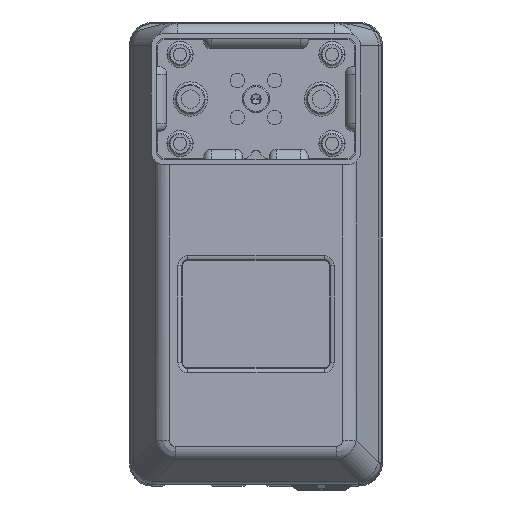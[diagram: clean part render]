
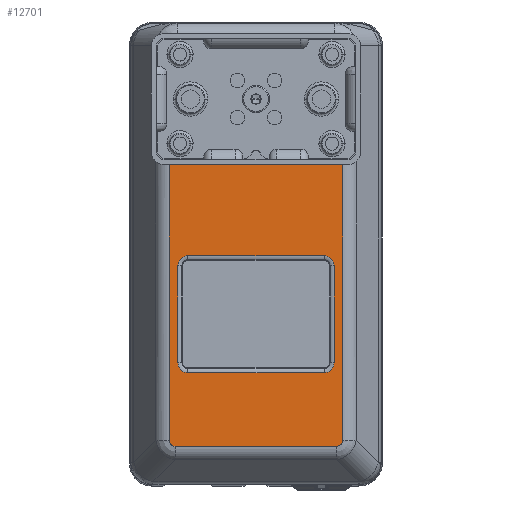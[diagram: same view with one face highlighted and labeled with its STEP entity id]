
A CAD part, front view. The second image highlights one B-rep face of the part: STEP entity #12701.
In plain terms, the highlighted planar face has unit normal (0, -1, 0) as drawn and (0, 1, 0) by its records, which use the part's own axes.
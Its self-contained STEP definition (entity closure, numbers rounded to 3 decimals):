
#1865=DIRECTION('',(-1.,0.,0.));
#1866=VECTOR('',#1865,61.725);
#1867=CARTESIAN_POINT('',(30.863,41.5,-161.378));
#1868=LINE('',#1867,#1866);
#1894=DIRECTION('',(0.,0.,-1.));
#1895=VECTOR('',#1894,109.034);
#1896=CARTESIAN_POINT('',(33.028,41.5,-50.178));
#1897=LINE('',#1896,#1895);
#2019=CARTESIAN_POINT('',(-28.5,41.5,
-42.4));
#2020=DIRECTION('',(0.,1.,0.));
#2021=DIRECTION('',(0.,0.,-1.));
#2022=AXIS2_PLACEMENT_3D('',#2019,#2020,#2021);
#2024=CARTESIAN_POINT('',(-33.028,41.5,-159.213));
#2025=CARTESIAN_POINT('',(-33.028,41.5,-159.3));
#2026=CARTESIAN_POINT('',(-33.019,41.5,-159.481));
#2027=CARTESIAN_POINT('',(-32.977,41.5,-159.747));
#2028=CARTESIAN_POINT('',(-32.904,41.5,-160.008));
#2029=CARTESIAN_POINT('',(-32.802,41.5,-160.253));
#2030=CARTESIAN_POINT('',(-32.672,41.5,-160.478));
#2031=CARTESIAN_POINT('',(-32.515,41.5,-160.683));
#2032=CARTESIAN_POINT('',(-32.334,41.5,-160.864));
#2033=CARTESIAN_POINT('',(-32.13,41.5,-161.021));
#2034=CARTESIAN_POINT('',(-31.904,41.5,-161.151));
#2035=CARTESIAN_POINT('',(-31.66,41.5,-161.253));
#2036=CARTESIAN_POINT('',(-31.399,41.5,-161.326));
#2037=CARTESIAN_POINT('',(-31.132,41.5,-161.369));
#2038=CARTESIAN_POINT('',(-30.95,41.5,-161.378));
#2039=CARTESIAN_POINT('',(-30.863,41.5,-161.378));
#2041=CARTESIAN_POINT('',(30.863,41.5,-161.378));
#2042=CARTESIAN_POINT('',(30.95,41.5,-161.378));
#2043=CARTESIAN_POINT('',(31.132,41.5,-161.369));
#2044=CARTESIAN_POINT('',(31.399,41.5,-161.326));
#2045=CARTESIAN_POINT('',(31.66,41.5,-161.253));
#2046=CARTESIAN_POINT('',(31.904,41.5,-161.151));
#2047=CARTESIAN_POINT('',(32.13,41.5,-161.021));
#2048=CARTESIAN_POINT('',(32.334,41.5,-160.864));
#2049=CARTESIAN_POINT('',(32.515,41.5,-160.683));
#2050=CARTESIAN_POINT('',(32.672,41.5,-160.478));
#2051=CARTESIAN_POINT('',(32.802,41.5,-160.253));
#2052=CARTESIAN_POINT('',(32.904,41.5,-160.008));
#2053=CARTESIAN_POINT('',(32.977,41.5,-159.747));
#2054=CARTESIAN_POINT('',(33.019,41.5,-159.481));
#2055=CARTESIAN_POINT('',(33.028,41.5,-159.3));
#2056=CARTESIAN_POINT('',(33.028,41.5,-159.213));
#2058=CARTESIAN_POINT('',(28.5,41.5,-42.4));
#2059=DIRECTION('',(0.,1.,0.));
#2060=DIRECTION('',(0.503,0.,-0.864));
#2061=AXIS2_PLACEMENT_3D('',#2058,#2059,#2060);
#2063=CARTESIAN_POINT('',(26.,41.5,-129.5));
#2064=DIRECTION('',(0.,1.,0.));
#2065=DIRECTION('',(1.,0.,0.));
#2066=AXIS2_PLACEMENT_3D('',#2063,#2064,#2065);
#2068=CARTESIAN_POINT('',(-26.,41.5,-129.5));
#2069=DIRECTION('',(0.,1.,0.));
#2070=DIRECTION('',(0.,0.,-1.));
#2071=AXIS2_PLACEMENT_3D('',#2068,#2069,#2070);
#2073=CARTESIAN_POINT('',(-26.,41.5,-92.5));
#2074=DIRECTION('',(0.,1.,0.));
#2075=DIRECTION('',(-1.,0.,0.));
#2076=AXIS2_PLACEMENT_3D('',#2073,#2074,#2075);
#2078=CARTESIAN_POINT('',(26.,41.5,-92.5));
#2079=DIRECTION('',(0.,1.,0.));
#2080=DIRECTION('',(0.,0.,1.));
#2081=AXIS2_PLACEMENT_3D('',#2078,#2079,#2080);
#2083=DIRECTION('',(1.,0.,0.));
#2084=VECTOR('',#2083,57.);
#2085=CARTESIAN_POINT('',(-28.5,41.5,-51.4));
#2086=LINE('',#2085,#2084);
#2260=DIRECTION('',(0.,0.,1.));
#2261=VECTOR('',#2260,109.034);
#2262=CARTESIAN_POINT('',(-33.028,41.5,-159.213));
#2263=LINE('',#2262,#2261);
#2355=DIRECTION('',(0.,0.,1.));
#2356=VECTOR('',#2355,37.);
#2357=CARTESIAN_POINT('',(29.803,41.5,-129.5));
#2358=LINE('',#2357,#2356);
#2378=DIRECTION('',(-1.,0.,0.));
#2379=VECTOR('',#2378,52.);
#2380=CARTESIAN_POINT('',(26.,41.5,-88.697));
#2381=LINE('',#2380,#2379);
#2401=DIRECTION('',(0.,0.,-1.));
#2402=VECTOR('',#2401,37.);
#2403=CARTESIAN_POINT('',(-29.803,41.5,-92.5));
#2404=LINE('',#2403,#2402);
#2424=DIRECTION('',(1.,0.,0.));
#2425=VECTOR('',#2424,52.);
#2426=CARTESIAN_POINT('',(-26.,41.5,-133.303));
#2427=LINE('',#2426,#2425);
#8905=CARTESIAN_POINT('',(-28.5,41.5,-51.4));
#8906=CARTESIAN_POINT('',(28.5,41.5,-51.4));
#8907=VERTEX_POINT('',#8905);
#8908=VERTEX_POINT('',#8906);
#8909=CARTESIAN_POINT('',(-33.028,41.5,-50.178));
#8910=VERTEX_POINT('',#8909);
#8911=CARTESIAN_POINT('',(-33.028,41.5,-159.213));
#8912=VERTEX_POINT('',#8911);
#8913=VERTEX_POINT('',#2039);
#8914=CARTESIAN_POINT('',(30.863,41.5,-161.378));
#8915=VERTEX_POINT('',#8914);
#8916=VERTEX_POINT('',#2056);
#8917=CARTESIAN_POINT('',(33.028,41.5,-50.178));
#8918=VERTEX_POINT('',#8917);
#8919=CARTESIAN_POINT('',(29.803,41.5,-129.5));
#8920=CARTESIAN_POINT('',(26.,41.5,-133.303));
#8921=VERTEX_POINT('',#8919);
#8922=VERTEX_POINT('',#8920);
#8923=CARTESIAN_POINT('',(-26.,41.5,-133.303));
#8924=VERTEX_POINT('',#8923);
#8925=CARTESIAN_POINT('',(-29.803,41.5,-129.5));
#8926=VERTEX_POINT('',#8925);
#8927=CARTESIAN_POINT('',(-29.803,41.5,-92.5));
#8928=VERTEX_POINT('',#8927);
#8929=CARTESIAN_POINT('',(-26.,41.5,-88.697));
#8930=VERTEX_POINT('',#8929);
#8931=CARTESIAN_POINT('',(26.,41.5,-88.697));
#8932=VERTEX_POINT('',#8931);
#8933=CARTESIAN_POINT('',(29.803,41.5,-92.5));
#8934=VERTEX_POINT('',#8933);
#12665=CARTESIAN_POINT('',(36.492,41.5,0.));
#12666=DIRECTION('',(0.,1.,0.));
#12667=DIRECTION('',(-1.,0.,0.));
#12668=AXIS2_PLACEMENT_3D('',#12665,#12666,#12667);
#12669=PLANE('',#12668);
#12671=ORIENTED_EDGE('',*,*,#12670,.F.);
#12673=ORIENTED_EDGE('',*,*,#12672,.T.);
#12675=ORIENTED_EDGE('',*,*,#12674,.F.);
#12676=ORIENTED_EDGE('',*,*,#12305,.T.);
#12677=ORIENTED_EDGE('',*,*,#12320,.F.);
#12678=ORIENTED_EDGE('',*,*,#12401,.T.);
#12679=ORIENTED_EDGE('',*,*,#12415,.F.);
#12680=ORIENTED_EDGE('',*,*,#12643,.T.);
#12681=EDGE_LOOP('',(#12671,#12673,#12675,#12676,#12677,#12678,#12679,#12680));
#12682=FACE_OUTER_BOUND('',#12681,.F.);
#12684=ORIENTED_EDGE('',*,*,#12683,.T.);
#12686=ORIENTED_EDGE('',*,*,#12685,.F.);
#12688=ORIENTED_EDGE('',*,*,#12687,.T.);
#12690=ORIENTED_EDGE('',*,*,#12689,.F.);
#12692=ORIENTED_EDGE('',*,*,#12691,.T.);
#12694=ORIENTED_EDGE('',*,*,#12693,.F.);
#12696=ORIENTED_EDGE('',*,*,#12695,.T.);
#12698=ORIENTED_EDGE('',*,*,#12697,.F.);
#12699=EDGE_LOOP('',(#12684,#12686,#12688,#12690,#12692,#12694,#12696,#12698));
#12700=FACE_BOUND('',#12699,.F.);
#2023=CIRCLE('',#2022,9.);
#2040=B_SPLINE_CURVE_WITH_KNOTS('',3,(#2024,#2025,#2026,#2027,#2028,#2029,#2030,
#2031,#2032,#2033,#2034,#2035,#2036,#2037,#2038,#2039),.UNSPECIFIED.,.F.,.F.,(4,
1,1,1,1,1,1,1,1,1,1,1,1,4),(0.,0.072,0.151,
0.229,0.307,0.384,0.461,
0.538,0.615,0.692,0.77,
0.848,0.927,1.),.UNSPECIFIED.);
#2057=B_SPLINE_CURVE_WITH_KNOTS('',3,(#2041,#2042,#2043,#2044,#2045,#2046,#2047,
#2048,#2049,#2050,#2051,#2052,#2053,#2054,#2055,#2056),.UNSPECIFIED.,.F.,.F.,(4,
1,1,1,1,1,1,1,1,1,1,1,1,4),(0.,0.073,0.152,
0.23,0.308,0.385,0.462,
0.539,0.616,0.693,0.771,
0.849,0.928,1.),.UNSPECIFIED.);
#2062=CIRCLE('',#2061,9.);
#2067=CIRCLE('',#2066,3.803);
#2072=CIRCLE('',#2071,3.803);
#2077=CIRCLE('',#2076,3.803);
#2082=CIRCLE('',#2081,3.803);
#12305=EDGE_CURVE('',#8912,#8913,#2040,.T.);
#12320=EDGE_CURVE('',#8915,#8913,#1868,.T.);
#12401=EDGE_CURVE('',#8915,#8916,#2057,.T.);
#12415=EDGE_CURVE('',#8918,#8916,#1897,.T.);
#12643=EDGE_CURVE('',#8918,#8908,#2062,.T.);
#12670=EDGE_CURVE('',#8907,#8908,#2086,.T.);
#12672=EDGE_CURVE('',#8907,#8910,#2023,.T.);
#12674=EDGE_CURVE('',#8912,#8910,#2263,.T.);
#12683=EDGE_CURVE('',#8921,#8922,#2067,.T.);
#12685=EDGE_CURVE('',#8924,#8922,#2427,.T.);
#12687=EDGE_CURVE('',#8924,#8926,#2072,.T.);
#12689=EDGE_CURVE('',#8928,#8926,#2404,.T.);
#12691=EDGE_CURVE('',#8928,#8930,#2077,.T.);
#12693=EDGE_CURVE('',#8932,#8930,#2381,.T.);
#12695=EDGE_CURVE('',#8932,#8934,#2082,.T.);
#12697=EDGE_CURVE('',#8921,#8934,#2358,.T.);
#12701=ADVANCED_FACE('',(#12682,#12700),#12669,.T.);
